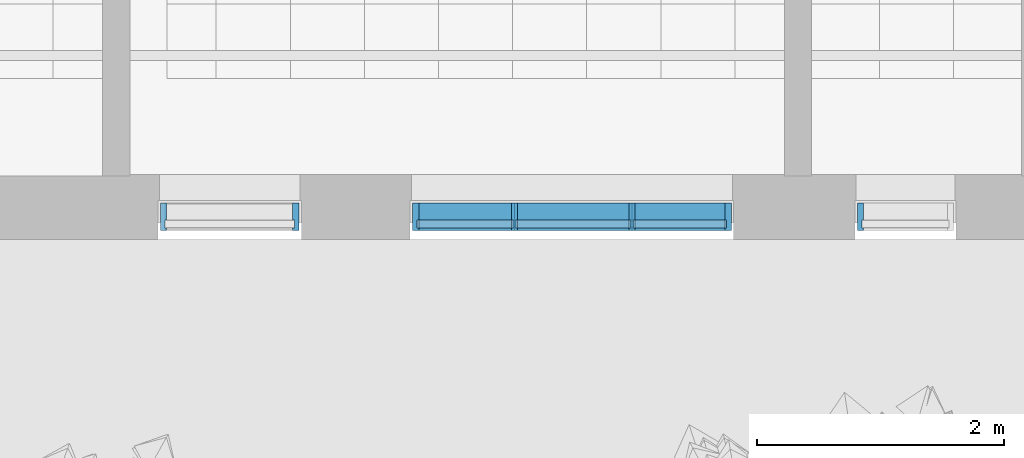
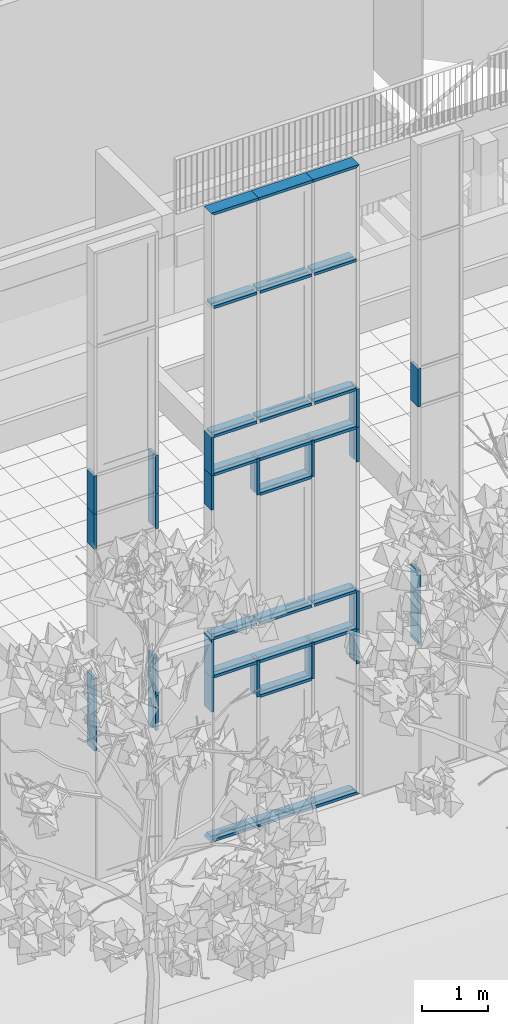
# One storey, part 32 of 246: 46 members, 3 elements without a shape of their own.
"""IFC2X3 building model written with IfcOpenShell, lengths in millimetres."""

from ifc_helpers import new_model, entity, si_unit, converted_unit, derived_unit, money_unit, direction, frame, origin_with_axes, place, context, subcontext, project, spatial, faceted_brep, source, transform, mapped, material, type_object, element, aggregate, save


model = new_model("IFC2X3")

# Units and contexts
model_context = context("Model", 3, precision=0.01, world=origin_with_axes(), true_north=direction((0.0, 1.0)))
body_context = subcontext(model_context, "Body", "Model", "MODEL_VIEW")
ifc_project = project(units=[si_unit("LENGTHUNIT", "METRE", prefix="MILLI"), si_unit("AREAUNIT", "SQUARE_METRE"), si_unit("VOLUMEUNIT", "CUBIC_METRE"), converted_unit("PLANEANGLEUNIT", "DEGREE", entity("IfcPlaneAngleMeasure", 0.0174532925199), si_unit("PLANEANGLEUNIT", "RADIAN"), dimensions=[0, 0, 0, 0, 0, 0, 0]), si_unit("SOLIDANGLEUNIT", "STERADIAN"), money_unit("EUR"), converted_unit("TIMEUNIT", "Year", entity("IfcTimeMeasure", 31556926.0), si_unit("TIMEUNIT", "SECOND"), dimensions=[0, 0, 1, 0, 0, 0, 0]), si_unit("MASSUNIT", "GRAM", prefix="KILO"), si_unit("THERMODYNAMICTEMPERATUREUNIT", "DEGREE_CELSIUS"), si_unit("LUMINOUSINTENSITYUNIT", "LUMEN"), si_unit("ENERGYUNIT", "JOULE", prefix="MEGA"), derived_unit("THERMALCONDUCTANCEUNIT", [(si_unit("POWERUNIT", "WATT"), 1), (si_unit("LENGTHUNIT", "METRE"), -1), (si_unit("THERMODYNAMICTEMPERATUREUNIT", "KELVIN"), -1)]), derived_unit("SPECIFICHEATCAPACITYUNIT", [(si_unit("ENERGYUNIT", "JOULE"), 1), (si_unit("MASSUNIT", "GRAM", prefix="KILO"), -1), (si_unit("THERMODYNAMICTEMPERATUREUNIT", "KELVIN"), -1)]), derived_unit("MASSDENSITYUNIT", [(si_unit("MASSUNIT", "GRAM", prefix="KILO"), 1), (si_unit("VOLUMEUNIT", "CUBIC_METRE"), -1)])], contexts=[model_context])

# Site, building, storey
site_placement = place(None, origin_with_axes())
site = spatial("IfcSite", under=ifc_project, at=site_placement, Name="L.Koidula tn 11b", CompositionType="ELEMENT")
building_placement = place(site_placement, origin_with_axes())
building = spatial("IfcBuilding", under=site, at=building_placement, Name="Rakvere Riigigümnaasium", CompositionType="ELEMENT")
storey_placement = place(building_placement, origin_with_axes())
storey = spatial("IfcBuildingStorey", under=building, at=storey_placement, Name="1.korrus 0,00", CompositionType="ELEMENT", Elevation=0.0)

# Curtain wall, members
curtain_wall_type = type_object("IfcCurtainWallType", Name="Curtain Wall Type", PredefinedType="NOTDEFINED")
curtain_wall_1_placement = place(storey_placement, frame((45905.0206042, 5111.45334637, -8.09717236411e-06), z_axis=(0.0, 0.0, 1.0), x_axis=(1.0, 0.0, 0.0)))
curtain_wall_1 = element("IfcCurtainWall", 1, at=curtain_wall_1_placement, inside=storey, type_object=curtain_wall_type, Name="KLF-05-1B")
ifc_material = material(Name="Alumiiniumprofiil (RAL 7021)")
member_type_1 = type_object("IfcMemberType", Name="Boundary Frame 50 x 222", PredefinedType="MULLION")
shared_shape_1 = source(origin_with_axes(), body_context, "Body", "Brep", [
    faceted_brep([(37.0, -32.5, 705.000000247), (37.0, 32.5, 705.000000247), (50.0, 32.5, 705.000000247), (50.0, 53.0, 705.000000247), (0.0, 53.0, 705.000000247), (0.0, -169.0, 705.000000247), (50.0, -169.0, 705.000000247), (50.0, -32.5, 705.000000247), (37.0, -32.5, 0.0), (37.0, 32.5, 0.0), (50.0, 32.5, 0.0), (50.0, 53.0, 0.0), (0.0, 53.0, 0.0), (0.0, -169.0, 0.0), (50.0, -169.0, 0.0), (50.0, -32.5, 0.0)], [[[0, 1, 2, 3, 4, 5, 6, 7]], [[1, 0, 8, 9]], [[10, 2, 1, 9]], [[2, 10, 11, 3]], [[12, 4, 3, 11]], [[13, 5, 4, 12]], [[14, 6, 5, 13]], [[15, 7, 6, 14]], [[0, 7, 15, 8]], [[8, 15, 14, 13, 12, 11, 10, 9]]]),
])
member_1_placement = place(curtain_wall_1_placement, frame((734.490457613, 0.0, 6760.0), z_axis=(0.0, 0.0, 1.0), x_axis=(-1.0, 0.0, 0.0)))
member_1 = element("IfcMember", 2, at=member_1_placement, type_object=member_type_1, material=ifc_material, Name="KLF-05-0A-Profiilid", ObjectType="MULLION", context=body_context, shape_type="MappedRepresentation", body=[
    mapped(shared_shape_1, transform((0.0, 0.0, 0.0))),
])
member_2_placement = place(curtain_wall_1_placement, frame((734.490457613, 0.0, 3040.0), z_axis=(0.0, 0.0, 1.0), x_axis=(-1.0, 0.0, 0.0)))
member_2 = element("IfcMember", 3, at=member_2_placement, type_object=member_type_1, material=ifc_material, Name="KLF-05-7A-Profiilid", ObjectType="MULLION", context=body_context, shape_type="MappedRepresentation", body=[
    mapped(shared_shape_1, transform((0.0, 0.0, 0.0))),
])

curtain_wall_2_placement = place(storey_placement, frame((48860.000217, 5111.43278481, -1.61944597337e-05), z_axis=(0.0, 0.0, 1.0), x_axis=(1.0, 0.0, 0.0)))
curtain_wall_2 = element("IfcCurtainWall", 4, at=curtain_wall_2_placement, inside=storey, type_object=curtain_wall_type, Name="KLF-05-3A")
member_3_placement = place(curtain_wall_2_placement, frame((1279.99946018, -0.0202452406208, 6760.0), z_axis=(0.0, 0.0, 1.0), x_axis=(-0.999999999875, 1.58166009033e-05, 0.0)))
member_3 = element("IfcMember", 5, at=member_3_placement, type_object=member_type_1, material=ifc_material, Name="KLF-05-0A-Profiilid", ObjectType="MULLION", context=body_context, shape_type="MappedRepresentation", body=[
    mapped(shared_shape_1, transform((0.0, 0.0, 0.0))),
])
member_4_placement = place(curtain_wall_2_placement, frame((1279.99946018, -0.0202452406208, 3040.0), z_axis=(0.0, 0.0, 1.0), x_axis=(-0.999999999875, 1.58166009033e-05, 0.0)))
member_4 = element("IfcMember", 6, at=member_4_placement, type_object=member_type_1, material=ifc_material, Name="KLF-05-7A-Profiilid", ObjectType="MULLION", context=body_context, shape_type="MappedRepresentation", body=[
    mapped(shared_shape_1, transform((0.0, 0.0, 0.0))),
])

# Member
shared_shape_2 = source(origin_with_axes(), body_context, "Body", "Brep", [
    faceted_brep([(37.0, -32.5, 640.0), (37.0, 32.5, 640.0), (50.0, 32.5, 640.0), (50.0, 53.0, 640.0), (0.0, 53.0, 640.0), (0.0, -169.0, 640.0), (50.0, -169.0, 640.0), (50.0, -32.5, 640.0), (37.0, -32.5, 0.0), (37.0, 32.5, 0.0), (50.0, 32.5, 0.0), (50.0, 53.0, 0.0), (0.0, 53.0, 0.0), (0.0, -169.0, 0.0), (50.0, -169.0, 0.0), (50.0, -32.5, 0.0)], [[[0, 1, 2, 3, 4, 5, 6, 7]], [[1, 0, 8, 9]], [[10, 2, 1, 9]], [[2, 10, 11, 3]], [[12, 4, 3, 11]], [[13, 5, 4, 12]], [[14, 6, 5, 13]], [[15, 7, 6, 14]], [[0, 7, 15, 8]], [[8, 15, 14, 13, 12, 11, 10, 9]]]),
])
member_5_placement = place(curtain_wall_1_placement, frame((734.490457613, 0.0, 6120.0), z_axis=(0.0, 0.0, 1.0), x_axis=(-1.0, 0.0, 0.0)))
member_5 = element("IfcMember", 7, at=member_5_placement, type_object=member_type_1, material=ifc_material, Name="KLF-05-9A-Profiilid", ObjectType="MULLION", context=body_context, shape_type="MappedRepresentation", body=[
    mapped(shared_shape_2, transform((0.0, 0.0, 0.0))),
])

member_6_placement = place(curtain_wall_1_placement, frame((734.490457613, 0.0, 2400.0), z_axis=(0.0, 0.0, 1.0), x_axis=(-1.0, 0.0, 0.0)))
member_6 = element("IfcMember", 8, at=member_6_placement, type_object=member_type_1, material=ifc_material, Name="KLF-05-6A-Profiilid", ObjectType="MULLION", context=body_context, shape_type="MappedRepresentation", body=[
    mapped(shared_shape_2, transform((0.0, 0.0, 0.0))),
])

member_7_placement = place(curtain_wall_2_placement, frame((1279.99946018, -0.0202452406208, 6120.0), z_axis=(0.0, 0.0, 1.0), x_axis=(-0.999999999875, 1.58166009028e-05, 0.0)))
member_7 = element("IfcMember", 9, at=member_7_placement, type_object=member_type_1, material=ifc_material, Name="KLF-05-9A-Profiilid", ObjectType="MULLION", context=body_context, shape_type="MappedRepresentation", body=[
    mapped(shared_shape_2, transform((0.0, 0.0, 0.0))),
])

member_8_placement = place(curtain_wall_2_placement, frame((1279.99946018, -0.0202452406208, 2400.0), z_axis=(0.0, 0.0, 1.0), x_axis=(-0.999999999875, 1.58166009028e-05, 0.0)))
member_8 = element("IfcMember", 10, at=member_8_placement, type_object=member_type_1, material=ifc_material, Name="KLF-05-6A-Profiilid", ObjectType="MULLION", context=body_context, shape_type="MappedRepresentation", body=[
    mapped(shared_shape_2, transform((0.0, 0.0, 0.0))),
])

# Curtain wall, members
curtain_wall_3_placement = place(storey_placement, frame((51550.0001978, 5111.45334637, -1.61944652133e-05), z_axis=(0.0, 0.0, 1.0), x_axis=(1.0, 0.0, 0.0)))
curtain_wall_3 = element("IfcCurtainWall", 11, at=curtain_wall_3_placement, inside=storey, type_object=curtain_wall_type, Name="KLF-05-4A")
shared_shape_3 = source(origin_with_axes(), body_context, "Body", "Brep", [
    faceted_brep([(-37.0, -32.5, 705.0), (-50.0, -32.5, 705.0), (-50.0, -169.0, 705.0), (0.0, -169.0, 705.0), (0.0, 53.0, 705.0), (-50.0, 53.0, 705.0), (-50.0, 32.5, 705.0), (-37.0, 32.5, 705.0), (-37.0, -32.5, 0.0), (-50.0, -32.5, 0.0), (-50.0, -169.0, 0.0), (0.0, -169.0, 0.0), (0.0, 53.0, 0.0), (-50.0, 53.0, 0.0), (-50.0, 32.5, 0.0), (-37.0, 32.5, 0.0)], [[[0, 1, 2, 3, 4, 5, 6, 7]], [[0, 8, 9, 1]], [[9, 10, 2, 1]], [[10, 11, 3, 2]], [[11, 12, 4, 3]], [[12, 13, 5, 4]], [[6, 5, 13, 14]], [[14, 15, 7, 6]], [[7, 15, 8, 0]], [[8, 15, 14, 13, 12, 11, 10, 9]]]),
])
member_9_placement = place(curtain_wall_3_placement, frame((-390.000197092, 0.0, 3040.0), z_axis=(0.0, 0.0, 1.0), x_axis=(-1.0, 0.0, 0.0)))
member_9 = element("IfcMember", 12, at=member_9_placement, type_object=member_type_1, material=ifc_material, Name="KLF-05-7A-Profiilid", ObjectType="MULLION", context=body_context, shape_type="MappedRepresentation", body=[
    mapped(shared_shape_3, transform((0.0, 0.0, 0.0))),
])
member_10_placement = place(curtain_wall_3_placement, frame((-390.000197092, 0.0, 6760.0), z_axis=(0.0, 0.0, 1.0), x_axis=(-1.0, 0.0, 0.0)))
member_10 = element("IfcMember", 13, at=member_10_placement, type_object=member_type_1, material=ifc_material, Name="KLF-05-5A-Profiilid", ObjectType="MULLION", context=body_context, shape_type="MappedRepresentation", body=[
    mapped(shared_shape_3, transform((0.0, 0.0, 0.0))),
])

# Member
member_11_placement = place(curtain_wall_1_placement, frame((-385.509964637, 0.0, 3040.0), z_axis=(0.0, 0.0, 1.0), x_axis=(-1.0, 0.0, 0.0)))
member_11 = element("IfcMember", 14, at=member_11_placement, type_object=member_type_1, material=ifc_material, Name="KLF-05-9A-Profiilid", ObjectType="MULLION", context=body_context, shape_type="MappedRepresentation", body=[
    mapped(shared_shape_3, transform((0.0, 0.0, 0.0))),
])

member_12_placement = place(curtain_wall_1_placement, frame((-385.509964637, 0.0, 6760.0), z_axis=(0.0, 0.0, 1.0), x_axis=(-1.0, 0.0, 0.0)))
member_12 = element("IfcMember", 15, at=member_12_placement, type_object=member_type_1, material=ifc_material, Name="KLF-05-6A-Profiilid", ObjectType="MULLION", context=body_context, shape_type="MappedRepresentation", body=[
    mapped(shared_shape_3, transform((0.0, 0.0, 0.0))),
])

member_13_placement = place(curtain_wall_2_placement, frame((-1299.99999984, 0.0205615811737, 3040.0), z_axis=(0.0, 0.0, 1.0), x_axis=(-0.999999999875, 1.58166009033e-05, 0.0)))
member_13 = element("IfcMember", 16, at=member_13_placement, type_object=member_type_1, material=ifc_material, Name="KLF-05-1A-Profiilid", ObjectType="MULLION", context=body_context, shape_type="MappedRepresentation", body=[
    mapped(shared_shape_3, transform((0.0, 0.0, 0.0))),
])

member_14_placement = place(curtain_wall_2_placement, frame((-1299.99999984, 0.0205615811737, 6760.0), z_axis=(0.0, 0.0, 1.0), x_axis=(-0.999999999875, 1.58166009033e-05, 0.0)))
member_14 = element("IfcMember", 17, at=member_14_placement, type_object=member_type_1, material=ifc_material, Name="KLF-05-8A-Profiilid", ObjectType="MULLION", context=body_context, shape_type="MappedRepresentation", body=[
    mapped(shared_shape_3, transform((0.0, 0.0, 0.0))),
])

shared_shape_4 = source(origin_with_axes(), body_context, "Body", "Brep", [
    faceted_brep([(-37.0, -32.5, 640.0), (-50.0, -32.5, 640.0), (-50.0, -169.0, 640.0), (0.0, -169.0, 640.0), (0.0, 53.0, 640.0), (-50.0, 53.0, 640.0), (-50.0, 32.5, 640.0), (-37.0, 32.5, 640.0), (-37.0, -32.5, 0.0), (-50.0, -32.5, 0.0), (-50.0, -169.0, 0.0), (0.0, -169.0, 0.0), (0.0, 53.0, 0.0), (-50.0, 53.0, 0.0), (-50.0, 32.5, 0.0), (-37.0, 32.5, 0.0)], [[[0, 1, 2, 3, 4, 5, 6, 7]], [[0, 8, 9, 1]], [[9, 10, 2, 1]], [[10, 11, 3, 2]], [[11, 12, 4, 3]], [[12, 13, 5, 4]], [[6, 5, 13, 14]], [[14, 15, 7, 6]], [[7, 15, 8, 0]], [[8, 15, 14, 13, 12, 11, 10, 9]]]),
])
member_15_placement = place(curtain_wall_3_placement, frame((-390.000197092, 0.0, 2400.0), z_axis=(0.0, 0.0, 1.0), x_axis=(-1.0, 0.0, 0.0)))
member_15 = element("IfcMember", 18, at=member_15_placement, type_object=member_type_1, material=ifc_material, Name="KLF-05-8A-Profiilid", ObjectType="MULLION", context=body_context, shape_type="MappedRepresentation", body=[
    mapped(shared_shape_4, transform((0.0, 0.0, 0.0))),
])

aggregate(curtain_wall_3, [member_15, member_9, member_10])

member_16_placement = place(curtain_wall_1_placement, frame((-385.509964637, 0.0, 2400.0), z_axis=(0.0, 0.0, 1.0), x_axis=(-1.0, 0.0, 0.0)))
member_16 = element("IfcMember", 19, at=member_16_placement, type_object=member_type_1, material=ifc_material, Name="KLF-05-0A-Profiilid", ObjectType="MULLION", context=body_context, shape_type="MappedRepresentation", body=[
    mapped(shared_shape_4, transform((0.0, 0.0, 0.0))),
])

member_17_placement = place(curtain_wall_1_placement, frame((-385.509964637, 0.0, 6120.0), z_axis=(0.0, 0.0, 1.0), x_axis=(-1.0, 0.0, 0.0)))
member_17 = element("IfcMember", 20, at=member_17_placement, type_object=member_type_1, material=ifc_material, Name="KLF-05-7A-Profiilid", ObjectType="MULLION", context=body_context, shape_type="MappedRepresentation", body=[
    mapped(shared_shape_4, transform((0.0, 0.0, 0.0))),
])

aggregate(curtain_wall_1, [member_1, member_5, member_2, member_6, member_16, member_11, member_17, member_12])

member_18_placement = place(curtain_wall_2_placement, frame((-1299.99999984, 0.0205615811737, 2400.0), z_axis=(0.0, 0.0, 1.0), x_axis=(-0.999999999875, 1.58166009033e-05, 0.0)))
member_18 = element("IfcMember", 21, at=member_18_placement, type_object=member_type_1, material=ifc_material, Name="KLF-05-2A-Profiilid", ObjectType="MULLION", context=body_context, shape_type="MappedRepresentation", body=[
    mapped(shared_shape_4, transform((0.0, 0.0, 0.0))),
])

member_19_placement = place(curtain_wall_2_placement, frame((-1299.99999984, 0.0205615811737, 6120.0), z_axis=(0.0, 0.0, 1.0), x_axis=(-0.999999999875, 1.58166009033e-05, 0.0)))
member_19 = element("IfcMember", 22, at=member_19_placement, type_object=member_type_1, material=ifc_material, Name="KLF-05-9A-Profiilid", ObjectType="MULLION", context=body_context, shape_type="MappedRepresentation", body=[
    mapped(shared_shape_4, transform((0.0, 0.0, 0.0))),
])

member_type_2 = type_object("IfcMemberType", Name="Transom Frame 50 x 222", PredefinedType="MULLION")
shared_shape_5 = source(origin_with_axes(), body_context, "Body", "Brep", [
    faceted_brep([(-12.0, -32.5, 925.0), (-25.0, -32.5, 925.0), (-25.0, -169.0, 925.0), (25.0, -169.0, 925.0), (25.0, -32.5, 925.0), (12.0, -32.5, 925.0), (12.0, 32.5, 925.0), (25.0, 32.5, 925.0), (25.0, 53.0, 925.0), (-25.0, 53.0, 925.0), (-25.0, 32.5, 925.0), (-12.0, 32.5, 925.0), (-12.0, -32.5, 25.0), (-25.0, -32.5, 25.0), (-25.0, -169.0, 25.0), (25.0, -169.0, 25.0), (25.0, -32.5, 25.0), (12.0, -32.5, 25.0), (12.0, 32.5, 25.0), (25.0, 32.5, 25.0), (25.0, 53.0, 25.0), (-25.0, 53.0, 25.0), (-25.0, 32.5, 25.0), (-12.0, 32.5, 25.0)], [[[0, 1, 2, 3, 4, 5, 6, 7, 8, 9, 10, 11]], [[1, 0, 12, 13]], [[1, 13, 14, 2]], [[2, 14, 15, 3]], [[4, 3, 15, 16]], [[4, 16, 17, 5]], [[5, 17, 18, 6]], [[7, 6, 18, 19]], [[19, 20, 8, 7]], [[8, 20, 21, 9]], [[22, 10, 9, 21]], [[11, 10, 22, 23]], [[0, 11, 23, 12]], [[23, 22, 21, 20, 19, 18, 17, 16, 15, 14, 13, 12]]]),
])
member_20_placement = place(curtain_wall_2_placement, frame((-474.999999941, 0.00751288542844, 7465.0), z_axis=(0.999999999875, -1.58166009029e-05, 0.0), x_axis=(0.0, 0.0, 1.0)))
member_20 = element("IfcMember", 23, at=member_20_placement, type_object=member_type_2, material=ifc_material, Name="KLF-05-3A-Profiilid", ObjectType="MULLION", context=body_context, shape_type="MappedRepresentation", body=[
    mapped(shared_shape_5, transform((0.0, 0.0, 0.0))),
])

member_21_placement = place(curtain_wall_2_placement, frame((-474.999999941, 0.00751288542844, 6760.0), z_axis=(0.999999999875, -1.58166009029e-05, 0.0), x_axis=(0.0, 0.0, 1.0)))
member_21 = element("IfcMember", 24, at=member_21_placement, type_object=member_type_2, material=ifc_material, Name="KLF-05-3A-Profiilid", ObjectType="MULLION", context=body_context, shape_type="MappedRepresentation", body=[
    mapped(shared_shape_5, transform((0.0, 0.0, 0.0))),
])

member_22_placement = place(curtain_wall_2_placement, frame((-474.999999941, 0.00751288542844, 6120.0), z_axis=(0.999999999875, -1.58166009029e-05, 0.0), x_axis=(0.0, 0.0, 1.0)))
member_22 = element("IfcMember", 25, at=member_22_placement, type_object=member_type_2, material=ifc_material, Name="KLF-05-3A-Profiilid", ObjectType="MULLION", context=body_context, shape_type="MappedRepresentation", body=[
    mapped(shared_shape_5, transform((0.0, 0.0, 0.0))),
])

member_23_placement = place(curtain_wall_2_placement, frame((-474.999999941, 0.00751288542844, 3745.0), z_axis=(0.999999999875, -1.58166009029e-05, 0.0), x_axis=(0.0, 0.0, 1.0)))
member_23 = element("IfcMember", 26, at=member_23_placement, type_object=member_type_2, material=ifc_material, Name="KLF-05-3A-Profiilid", ObjectType="MULLION", context=body_context, shape_type="MappedRepresentation", body=[
    mapped(shared_shape_5, transform((0.0, 0.0, 0.0))),
])

member_24_placement = place(curtain_wall_2_placement, frame((-474.999999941, 0.00751288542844, 2400.0), z_axis=(0.999999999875, -1.58166009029e-05, 0.0), x_axis=(0.0, 0.0, 1.0)))
member_24 = element("IfcMember", 27, at=member_24_placement, type_object=member_type_2, material=ifc_material, Name="KLF-05-3A-Profiilid", ObjectType="MULLION", context=body_context, shape_type="MappedRepresentation", body=[
    mapped(shared_shape_5, transform((0.0, 0.0, 0.0))),
])

member_25_placement = place(curtain_wall_2_placement, frame((-474.999999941, 0.00751288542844, 3040.0), z_axis=(0.999999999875, -1.58166009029e-05, 0.0), x_axis=(0.0, 0.0, 1.0)))
member_25 = element("IfcMember", 28, at=member_25_placement, type_object=member_type_2, material=ifc_material, Name="KLF-05-3A-Profiilid", ObjectType="MULLION", context=body_context, shape_type="MappedRepresentation", body=[
    mapped(shared_shape_5, transform((0.0, 0.0, 0.0))),
])

member_26_placement = place(curtain_wall_2_placement, frame((-474.999999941, 0.00751288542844, 9840.0), z_axis=(0.999999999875, -1.58166009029e-05, 0.0), x_axis=(0.0, 0.0, 1.0)))
member_26 = element("IfcMember", 29, at=member_26_placement, type_object=member_type_2, material=ifc_material, Name="KLF-05-6A-Profiilid", ObjectType="MULLION", context=body_context, shape_type="MappedRepresentation", body=[
    mapped(shared_shape_5, transform((0.0, 0.0, 0.0))),
])

member_type_3 = type_object("IfcMemberType", Name="Mullion Frame 50 x 222", PredefinedType="MULLION")
shared_shape_6 = source(origin_with_axes(), body_context, "Body", "Brep", [
    faceted_brep([(-12.0, -32.5, 665.0), (-25.0, -32.5, 665.0), (-25.0, -169.0, 665.0), (25.0, -169.0, 665.0), (25.0, -32.5, 665.0), (12.0, -32.5, 665.0), (12.0, 32.5, 665.0), (25.0, 32.5, 665.0), (25.0, 53.0, 665.0), (-25.0, 53.0, 665.0), (-25.0, 32.5, 665.0), (-12.0, 32.5, 665.0), (-12.0, -32.5, 0.0), (-25.0, -32.5, 0.0), (-25.0, -169.0, 0.0), (25.0, -169.0, 0.0), (25.0, -32.5, 0.0), (12.0, -32.5, 0.0), (12.0, 32.5, 0.0), (25.0, 32.5, 0.0), (25.0, 53.0, 0.0), (-25.0, 53.0, 0.0), (-25.0, 32.5, 0.0), (-12.0, 32.5, 0.0)], [[[0, 1, 2, 3, 4, 5, 6, 7, 8, 9, 10, 11]], [[1, 0, 12, 13]], [[1, 13, 14, 2]], [[3, 2, 14, 15]], [[4, 3, 15, 16]], [[4, 16, 17, 5]], [[5, 17, 18, 6]], [[7, 6, 18, 19]], [[19, 20, 8, 7]], [[9, 8, 20, 21]], [[22, 10, 9, 21]], [[11, 10, 22, 23]], [[0, 11, 23, 12]], [[23, 22, 21, 20, 19, 18, 17, 16, 15, 14, 13, 12]]]),
])
member_27_placement = place(curtain_wall_2_placement, frame((474.999999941, -0.00751288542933, 2400.0), z_axis=(0.0, 0.0, 1.0), x_axis=(-0.999999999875, 1.58166009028e-05, 0.0)))
member_27 = element("IfcMember", 30, at=member_27_placement, type_object=member_type_3, material=ifc_material, Name="KLF-05-3A-Profiilid", ObjectType="MULLION", context=body_context, shape_type="MappedRepresentation", body=[
    mapped(shared_shape_6, transform((0.0, 0.0, 0.0))),
])

member_28_placement = place(curtain_wall_2_placement, frame((-474.999999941, 0.00751288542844, 6120.0), z_axis=(0.0, 0.0, 1.0), x_axis=(-0.999999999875, 1.58166009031e-05, 0.0)))
member_28 = element("IfcMember", 31, at=member_28_placement, type_object=member_type_3, material=ifc_material, Name="KLF-05-3A-Profiilid", ObjectType="MULLION", context=body_context, shape_type="MappedRepresentation", body=[
    mapped(shared_shape_6, transform((0.0, 0.0, 0.0))),
])

member_29_placement = place(curtain_wall_2_placement, frame((474.999999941, -0.00751288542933, 6120.0), z_axis=(0.0, 0.0, 1.0), x_axis=(-0.999999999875, 1.58166009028e-05, 0.0)))
member_29 = element("IfcMember", 32, at=member_29_placement, type_object=member_type_3, material=ifc_material, Name="KLF-05-3A-Profiilid", ObjectType="MULLION", context=body_context, shape_type="MappedRepresentation", body=[
    mapped(shared_shape_6, transform((0.0, 0.0, 0.0))),
])

member_30_placement = place(curtain_wall_2_placement, frame((-474.999999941, 0.00751288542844, 2400.0), z_axis=(0.0, 0.0, 1.0), x_axis=(-0.999999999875, 1.58166009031e-05, 0.0)))
member_30 = element("IfcMember", 33, at=member_30_placement, type_object=member_type_3, material=ifc_material, Name="KLF-05-3A-Profiilid", ObjectType="MULLION", context=body_context, shape_type="MappedRepresentation", body=[
    mapped(shared_shape_6, transform((0.0, 0.0, 0.0))),
])

shared_shape_7 = source(origin_with_axes(), body_context, "Body", "Brep", [
    faceted_brep([(-12.0, -32.5, 755.000075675), (-25.0, -32.5, 755.000075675), (-25.0, -169.0, 755.000074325), (25.0, -169.0, 755.000074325), (25.0, -32.5, 755.000075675), (12.0, -32.5, 755.000075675), (12.0, 32.5, 755.000076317), (25.0, 32.5, 755.000076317), (25.0, 53.0, 755.00007652), (-25.0, 53.0, 755.00007652), (-25.0, 32.5, 755.000076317), (-12.0, 32.5, 755.000076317), (-12.0, -32.5, 25.0), (-25.0, -32.5, 25.0), (-25.0, -169.0, 25.0), (25.0, -169.0, 25.0), (25.0, -32.5, 25.0), (12.0, -32.5, 25.0), (12.0, 32.5, 25.0), (25.0, 32.5, 25.0), (25.0, 53.0, 25.0), (-25.0, 53.0, 25.0), (-25.0, 32.5, 25.0), (-12.0, 32.5, 25.0)], [[[0, 1, 2, 3, 4, 5, 6, 7, 8, 9, 10, 11]], [[1, 0, 12, 13]], [[1, 13, 14, 2]], [[2, 14, 15, 3]], [[4, 3, 15, 16]], [[4, 16, 17, 5]], [[5, 17, 18, 6]], [[7, 6, 18, 19]], [[19, 20, 8, 7]], [[8, 20, 21, 9]], [[22, 10, 9, 21]], [[11, 10, 22, 23]], [[0, 11, 23, 12]], [[23, 22, 21, 20, 19, 18, 17, 16, 15, 14, 13, 12]]]),
])
member_31_placement = place(curtain_wall_2_placement, frame((474.999999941, -0.00751288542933, 9840.0), z_axis=(0.999999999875, -1.58166009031e-05, 0.0), x_axis=(0.0, 0.0, 1.0)))
member_31 = element("IfcMember", 34, at=member_31_placement, type_object=member_type_2, material=ifc_material, Name="KLF-05-3A-Profiilid", ObjectType="MULLION", context=body_context, shape_type="MappedRepresentation", body=[
    mapped(shared_shape_7, transform((0.0, 0.0, 0.0))),
])

member_32_placement = place(curtain_wall_2_placement, frame((474.999999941, -0.00751288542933, 7465.0), z_axis=(0.999999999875, -1.58166009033e-05, 0.0), x_axis=(0.0, 0.0, 1.0)))
member_32 = element("IfcMember", 35, at=member_32_placement, type_object=member_type_2, material=ifc_material, Name="KLF-05-4A-Profiilid", ObjectType="MULLION", context=body_context, shape_type="MappedRepresentation", body=[
    mapped(shared_shape_7, transform((0.0, 0.0, 0.0))),
])

member_33_placement = place(curtain_wall_2_placement, frame((474.999999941, -0.00751288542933, 6760.0), z_axis=(0.999999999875, -1.58166009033e-05, 0.0), x_axis=(0.0, 0.0, 1.0)))
member_33 = element("IfcMember", 36, at=member_33_placement, type_object=member_type_2, material=ifc_material, Name="KLF-05-5A-Profiilid", ObjectType="MULLION", context=body_context, shape_type="MappedRepresentation", body=[
    mapped(shared_shape_7, transform((0.0, 0.0, 0.0))),
])

member_34_placement = place(curtain_wall_2_placement, frame((474.999999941, -0.00751288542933, 3745.0), z_axis=(0.999999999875, -1.58166009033e-05, 0.0), x_axis=(0.0, 0.0, 1.0)))
member_34 = element("IfcMember", 37, at=member_34_placement, type_object=member_type_2, material=ifc_material, Name="KLF-05-4A-Profiilid", ObjectType="MULLION", context=body_context, shape_type="MappedRepresentation", body=[
    mapped(shared_shape_7, transform((0.0, 0.0, 0.0))),
])

member_35_placement = place(curtain_wall_2_placement, frame((474.999999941, -0.00751288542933, 3040.0), z_axis=(0.999999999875, -1.58166009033e-05, 0.0), x_axis=(0.0, 0.0, 1.0)))
member_35 = element("IfcMember", 38, at=member_35_placement, type_object=member_type_2, material=ifc_material, Name="KLF-05-5A-Profiilid", ObjectType="MULLION", context=body_context, shape_type="MappedRepresentation", body=[
    mapped(shared_shape_7, transform((0.0, 0.0, 0.0))),
])

shared_shape_8 = source(origin_with_axes(), body_context, "Body", "Brep", [
    faceted_brep([(-12.0, -32.5, 800.0), (-25.0, -32.5, 800.0), (-25.0, -169.0, 800.0), (25.0, -169.0, 800.0), (25.0, -32.5, 800.0), (12.0, -32.5, 800.0), (12.0, 32.5, 800.0), (25.0, 32.5, 800.0), (25.0, 53.0, 800.0), (-25.0, 53.0, 800.0), (-25.0, 32.5, 800.0), (-12.0, 32.5, 800.0), (-12.0, -32.5, 50.0), (-25.0, -32.5, 50.0), (-25.0, -169.0, 50.0), (25.0, -169.0, 50.0), (25.0, -32.5, 50.0), (12.0, -32.5, 50.0), (12.0, 32.5, 50.0), (25.0, 32.5, 50.0), (25.0, 53.0, 50.0), (-25.0, 53.0, 50.0), (-25.0, 32.5, 50.0), (-12.0, 32.5, 50.0)], [[[0, 1, 2, 3, 4, 5, 6, 7, 8, 9, 10, 11]], [[1, 0, 12, 13]], [[1, 13, 14, 2]], [[2, 14, 15, 3]], [[4, 3, 15, 16]], [[4, 16, 17, 5]], [[5, 17, 18, 6]], [[7, 6, 18, 19]], [[19, 20, 8, 7]], [[8, 20, 21, 9]], [[22, 10, 9, 21]], [[11, 10, 22, 23]], [[0, 11, 23, 12]], [[23, 22, 21, 20, 19, 18, 17, 16, 15, 14, 13, 12]]]),
])
member_36_placement = place(curtain_wall_2_placement, frame((-1299.99999984, 0.0205615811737, 7465.0), z_axis=(0.999999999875, -1.58166009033e-05, 0.0), x_axis=(0.0, 0.0, 1.0)))
member_36 = element("IfcMember", 39, at=member_36_placement, type_object=member_type_2, material=ifc_material, Name="KLF-05-3A-Profiilid", ObjectType="MULLION", context=body_context, shape_type="MappedRepresentation", body=[
    mapped(shared_shape_8, transform((0.0, 0.0, 0.0))),
])

member_37_placement = place(curtain_wall_2_placement, frame((-1299.99999984, 0.0205615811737, 6760.0), z_axis=(0.999999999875, -1.58166009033e-05, 0.0), x_axis=(0.0, 0.0, 1.0)))
member_37 = element("IfcMember", 40, at=member_37_placement, type_object=member_type_2, material=ifc_material, Name="KLF-05-3A-Profiilid", ObjectType="MULLION", context=body_context, shape_type="MappedRepresentation", body=[
    mapped(shared_shape_8, transform((0.0, 0.0, 0.0))),
])

member_38_placement = place(curtain_wall_2_placement, frame((-1299.99999984, 0.0205615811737, 3745.0), z_axis=(0.999999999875, -1.58166009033e-05, 0.0), x_axis=(0.0, 0.0, 1.0)))
member_38 = element("IfcMember", 41, at=member_38_placement, type_object=member_type_2, material=ifc_material, Name="KLF-05-3A-Profiilid", ObjectType="MULLION", context=body_context, shape_type="MappedRepresentation", body=[
    mapped(shared_shape_8, transform((0.0, 0.0, 0.0))),
])

member_39_placement = place(curtain_wall_2_placement, frame((-1299.99999984, 0.0205615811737, 3040.0), z_axis=(0.999999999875, -1.58166009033e-05, 0.0), x_axis=(0.0, 0.0, 1.0)))
member_39 = element("IfcMember", 42, at=member_39_placement, type_object=member_type_2, material=ifc_material, Name="KLF-05-3A-Profiilid", ObjectType="MULLION", context=body_context, shape_type="MappedRepresentation", body=[
    mapped(shared_shape_8, transform((0.0, 0.0, 0.0))),
])

member_40_placement = place(curtain_wall_2_placement, frame((-1299.99999984, 0.0205615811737, 9840.0), z_axis=(0.999999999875, -1.58166009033e-05, 0.0), x_axis=(0.0, 0.0, 1.0)))
member_40 = element("IfcMember", 43, at=member_40_placement, type_object=member_type_2, material=ifc_material, Name="KLF-05-5A-Profiilid", ObjectType="MULLION", context=body_context, shape_type="MappedRepresentation", body=[
    mapped(shared_shape_8, transform((0.0, 0.0, 0.0))),
])

shared_shape_9 = source(origin_with_axes(), body_context, "Body", "Brep", [
    faceted_brep([(37.0, -32.5, 950.0), (37.0, 32.5, 950.0), (50.0, 32.5, 950.0), (50.0, 53.0, 950.0), (0.0, 53.0, 950.0), (0.0, -169.0, 950.0), (50.0, -169.0, 950.0), (50.0, -32.5, 950.0), (37.0, -32.5, 0.0), (37.0, 32.5, 0.0), (50.0, 32.5, 0.0), (50.0, 53.0, 0.0), (0.0, 53.0, 0.0), (0.0, -169.0, 0.0), (50.0, -169.0, 0.0), (50.0, -32.5, 0.0)], [[[0, 1, 2, 3, 4, 5, 6, 7]], [[1, 0, 8, 9]], [[10, 2, 1, 9]], [[2, 10, 11, 3]], [[12, 4, 3, 11]], [[13, 5, 4, 12]], [[14, 6, 5, 13]], [[15, 7, 6, 14]], [[0, 7, 15, 8]], [[8, 15, 14, 13, 12, 11, 10, 9]]]),
])
member_41_placement = place(curtain_wall_2_placement, frame((-474.999999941, 0.00751288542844, 0.0), z_axis=(0.999999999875, -1.58166009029e-05, 0.0), x_axis=(0.0, 0.0, 1.0)))
member_41 = element("IfcMember", 44, at=member_41_placement, type_object=member_type_1, material=ifc_material, Name="KLF-05-3A-Profiilid", ObjectType="MULLION", context=body_context, shape_type="MappedRepresentation", body=[
    mapped(shared_shape_9, transform((0.0, 0.0, 0.0))),
])

member_42_placement = place(curtain_wall_2_placement, frame((474.999999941, -0.00751288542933, 11590.0000411), z_axis=(-0.999999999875, 1.58166009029e-05, 0.0), x_axis=(0.0, 0.0, -1.0)))
member_42 = element("IfcMember", 45, at=member_42_placement, type_object=member_type_1, material=ifc_material, Name="KLF-05-4A-Profiilid", ObjectType="MULLION", context=body_context, shape_type="MappedRepresentation", body=[
    mapped(shared_shape_9, transform((0.0, 0.0, 0.0))),
])

shared_shape_10 = source(origin_with_axes(), body_context, "Body", "Brep", [
    faceted_brep([(37.0, -32.5, 768.000099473), (37.0, 32.5, 768.000099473), (50.0, 32.5, 755.000099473), (50.0, 53.0, 755.000099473), (0.0, 53.0, 805.000099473), (0.0, -169.0, 805.000099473), (50.0, -169.0, 755.000099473), (50.0, -32.5, 755.000099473), (37.0, -32.5, 0.0), (37.0, 32.5, 0.0), (50.0, 32.5, 0.0), (50.0, 53.0, 0.0), (0.0, 53.0, 0.0), (0.0, -169.0, 0.0), (50.0, -169.0, 0.0), (50.0, -32.5, 0.0)], [[[0, 1, 2, 3, 4, 5, 6, 7]], [[1, 0, 8, 9]], [[10, 2, 1, 9]], [[2, 10, 11, 3]], [[12, 4, 3, 11]], [[13, 5, 4, 12]], [[14, 6, 5, 13]], [[15, 7, 6, 14]], [[0, 7, 15, 8]], [[8, 15, 14, 13, 12, 11, 10, 9]]]),
])
member_43_placement = place(curtain_wall_2_placement, frame((474.999999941, -0.00751288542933, 0.0), z_axis=(0.999999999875, -1.58166009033e-05, 0.0), x_axis=(0.0, 0.0, 1.0)))
member_43 = element("IfcMember", 46, at=member_43_placement, type_object=member_type_1, material=ifc_material, Name="KLF-05-4A-Profiilid", ObjectType="MULLION", context=body_context, shape_type="MappedRepresentation", body=[
    mapped(shared_shape_10, transform((0.0, 0.0, 0.0))),
])

shared_shape_11 = source(origin_with_axes(), body_context, "Body", "Brep", [
    faceted_brep([(37.0, -32.5, 805.000075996), (37.0, 32.5, 805.000075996), (50.0, 32.5, 805.000075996), (50.0, 53.0, 805.000075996), (0.0, 53.0, 805.000075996), (0.0, -169.0, 805.000075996), (50.0, -169.0, 805.000075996), (50.0, -32.5, 805.000075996), (37.0, -32.5, 37.0), (37.0, 32.5, 37.0), (50.0, 32.5, 50.0), (50.0, 53.0, 50.0), (0.0, 53.0, 0.0), (0.0, -169.0, 0.0), (50.0, -169.0, 50.0), (50.0, -32.5, 50.0)], [[[0, 1, 2, 3, 4, 5, 6, 7]], [[1, 0, 8, 9]], [[10, 2, 1, 9]], [[2, 10, 11, 3]], [[4, 3, 11, 12]], [[5, 4, 12, 13]], [[6, 5, 13, 14]], [[15, 7, 6, 14]], [[0, 7, 15, 8]], [[8, 15, 14, 13, 12, 11, 10, 9]]]),
])
member_44_placement = place(curtain_wall_2_placement, frame((1279.99953334, -0.0202452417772, 11590.0000411), z_axis=(-0.999999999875, 1.58166009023e-05, 0.0), x_axis=(0.0, 0.0, -1.0)))
member_44 = element("IfcMember", 47, at=member_44_placement, type_object=member_type_1, material=ifc_material, Name="KLF-05-3A-Profiilid", ObjectType="MULLION", context=body_context, shape_type="MappedRepresentation", body=[
    mapped(shared_shape_11, transform((0.0, 0.0, 0.0))),
])

shared_shape_12 = source(origin_with_axes(), body_context, "Body", "Brep", [
    faceted_brep([(37.0, -32.5, 825.0), (37.0, 32.5, 825.0), (50.0, 32.5, 825.0), (50.0, 53.0, 825.0), (0.0, 53.0, 825.0), (0.0, -169.0, 825.0), (50.0, -169.0, 825.0), (50.0, -32.5, 825.0), (37.0, -32.5, 37.0), (37.0, 32.5, 37.0), (50.0, 32.5, 50.0), (50.0, 53.0, 50.0), (0.0, 53.0, 0.0), (0.0, -169.0, 0.0), (50.0, -169.0, 50.0), (50.0, -32.5, 50.0)], [[[0, 1, 2, 3, 4, 5, 6, 7]], [[1, 0, 8, 9]], [[10, 2, 1, 9]], [[2, 10, 11, 3]], [[4, 3, 11, 12]], [[5, 4, 12, 13]], [[6, 5, 13, 14]], [[15, 7, 6, 14]], [[0, 7, 15, 8]], [[8, 15, 14, 13, 12, 11, 10, 9]]]),
])
member_45_placement = place(curtain_wall_2_placement, frame((-1299.99999984, 0.0205615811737, 0.0), z_axis=(0.999999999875, -1.58166009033e-05, 0.0), x_axis=(0.0, 0.0, 1.0)))
member_45 = element("IfcMember", 48, at=member_45_placement, type_object=member_type_1, material=ifc_material, Name="KLF-05-2A-Profiilid", ObjectType="MULLION", context=body_context, shape_type="MappedRepresentation", body=[
    mapped(shared_shape_12, transform((0.0, 0.0, 0.0))),
])

shared_shape_13 = source(origin_with_axes(), body_context, "Body", "Brep", [
    faceted_brep([(37.0, -32.5, 788.0), (37.0, 32.5, 788.0), (50.0, 32.5, 775.0), (50.0, 53.0, 775.0), (0.0, 53.0, 825.0), (0.0, -169.0, 825.0), (50.0, -169.0, 775.0), (50.0, -32.5, 775.0), (37.0, -32.5, 0.0), (37.0, 32.5, 0.0), (50.0, 32.5, 0.0), (50.0, 53.0, 0.0), (0.0, 53.0, 0.0), (0.0, -169.0, 0.0), (50.0, -169.0, 0.0), (50.0, -32.5, 0.0)], [[[0, 1, 2, 3, 4, 5, 6, 7]], [[1, 0, 8, 9]], [[10, 2, 1, 9]], [[2, 10, 11, 3]], [[12, 4, 3, 11]], [[13, 5, 4, 12]], [[14, 6, 5, 13]], [[15, 7, 6, 14]], [[0, 7, 15, 8]], [[8, 15, 14, 13, 12, 11, 10, 9]]]),
])
member_46_placement = place(curtain_wall_2_placement, frame((-474.999999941, 0.00751288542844, 11590.0000411), z_axis=(-0.999999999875, 1.58166009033e-05, 0.0), x_axis=(0.0, 0.0, -1.0)))
member_46 = element("IfcMember", 49, at=member_46_placement, type_object=member_type_1, material=ifc_material, Name="KLF-05-5A-Profiilid", ObjectType="MULLION", context=body_context, shape_type="MappedRepresentation", body=[
    mapped(shared_shape_13, transform((0.0, 0.0, 0.0))),
])

aggregate(curtain_wall_2, [member_41, member_45, member_27, member_20, member_28, member_21, member_36, member_22, member_23, member_29, member_37, member_38, member_30, member_24, member_39, member_25, member_26, member_40, member_18, member_13, member_19, member_14, member_31, member_32, member_33, member_3, member_7, member_34, member_4, member_35, member_8, member_43, member_46, member_42, member_44])

save(model, "model.ifc")
